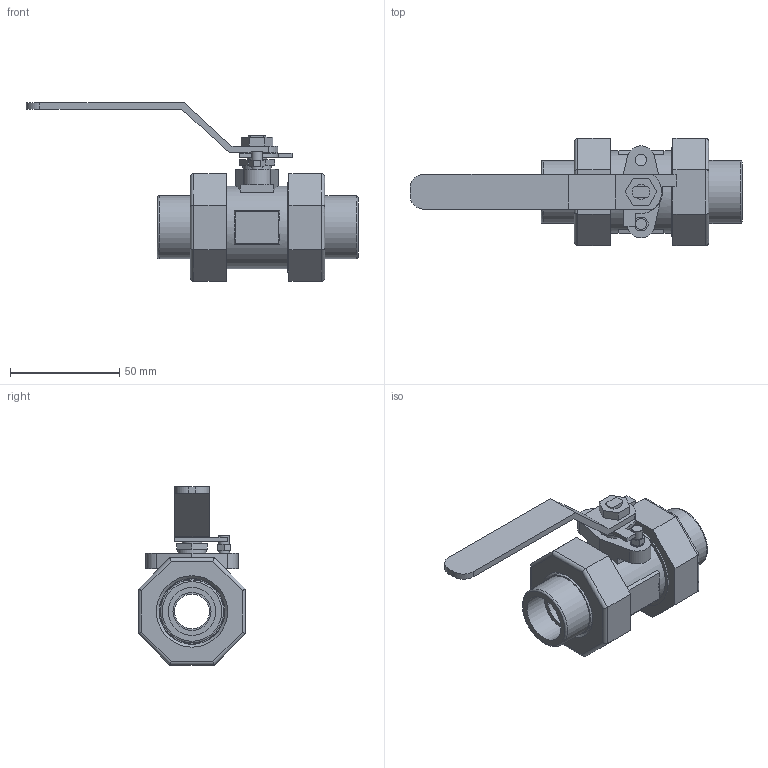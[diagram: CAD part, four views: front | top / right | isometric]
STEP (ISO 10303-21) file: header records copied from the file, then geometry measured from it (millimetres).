
FILE_DESCRIPTION((' '),'2;1');
FILE_NAME('N:\Technical Support\Private\Jomar Valve CAD\Ball Valves\CS and SS\2002N-DUE\.5 S-CS[SS]-2002N-DUE (101-993 [101-983])FusionCopy.stp.step','2017-01-24T13:03:08',(' '),(' '),' ','ACIS',' ');
FILE_SCHEMA(('CONFIG_CONTROL_DESIGN'));
Length unit declared in the file: inch
Products named in the file (14): N:\Technical Support\Private\Jomar Valve CAD\Ball Valves\CS and SS\2002N-DUE\.5 S-CS[SS]-2002N-DUE (101-993 [101-983])FusionCopy.stp.step; Body1; Body2; Body3; Body4; Body5; Body6; Body7; Body8; Body9; Body10; Body11; Body12; Body13
Assembly tree (13 placements, depth 2):
  N:\Technical Support\Private\Jomar Valve CAD\Ball Valves\CS and SS\2002N-DUE\.5 S-CS[SS]-2002N-DUE (101-993 [101-983])FusionCopy.stp.step
    Body1
    Body2
    Body3
    Body4
    Body5
    Body6
    Body7
    Body8
    Body9
    Body10
    Body11
    Body12
    Body13
Bounding box: 151.88 x 49.12 x 81.56 mm (x, y, z)
Volume: 105101.4 mm3; surface area: 44273.2 mm2
Topology: 13 solids, 13 shells, 202 faces, 448 edges, 291 vertices
Faces by surface type: plane 108, cylinder 50, bspline 42, cone 1, torus 1
Full cylindrical faces by diameter (mm): 4.978 x1, 5.029 x1, 5.334 x2, 6.198 x1, 6.934 x1, 8.89 x1, 13.03 x1, 15.875 x1, 17.399 x1, 21.793 x2, 21.844 x1, 28.143 x2, 28.829 x1, 29.845 x1, 30.099 x1, 30.48 x1, 34.925 x1, 37.719 x1, 39.116 x1, 40.97 x2
Entity records: 7656 total; most frequent: CARTESIAN_POINT 1317, DIRECTION 913, ORIENTED_EDGE 818, EDGE_CURVE 409, AXIS2_PLACEMENT_3D 317, VERTEX_POINT 288, EDGE_LOOP 281, VECTOR 279
